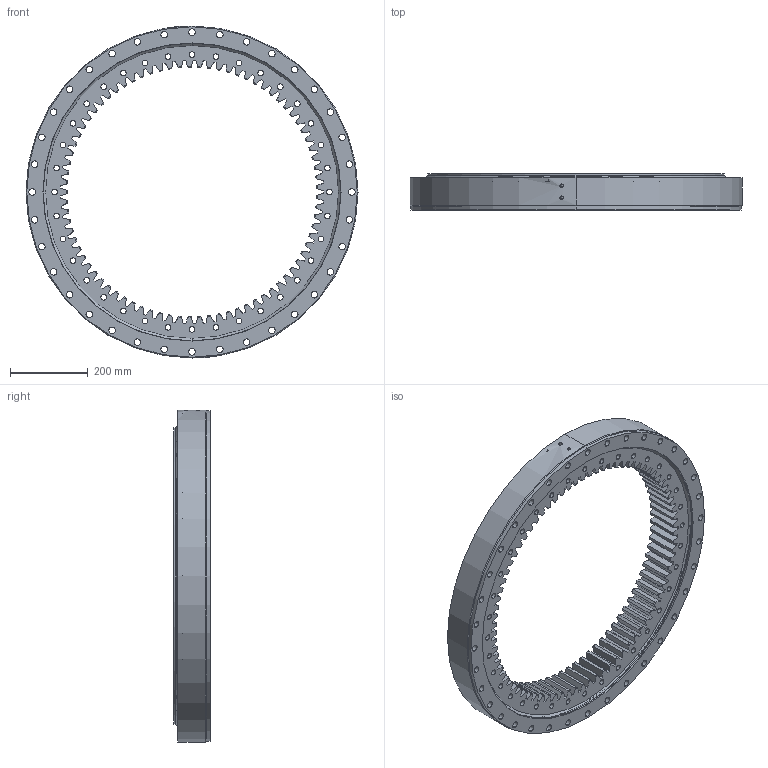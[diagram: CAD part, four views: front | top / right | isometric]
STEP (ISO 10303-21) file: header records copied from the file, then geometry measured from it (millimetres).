
FILE_DESCRIPTION (( 'STEP AP214' ), '1' );
FILE_NAME ('B2220-1-0852BA.STEP', '2022-11-24T07:02:07', ( '' ), ( '' ), 'SwSTEP 2.0', 'SolidWorks 2020', '' );
FILE_SCHEMA (( 'AUTOMOTIVE_DESIGN' ));
Length unit declared in the file: millimetre
Products named in the file (1): B2220-1-0852BA
Bounding box: 852 x 93 x 852 mm (x, y, z)
Volume: 17473030.5 mm3; surface area: 1909624.2 mm2
Topology: 4 solids, 4 shells, 800 faces, 2236 edges, 1488 vertices
Faces by surface type: cylinder 333, plane 295, cone 172
Entity records: 27153 total; most frequent: CARTESIAN_POINT 6017, ORIENTED_EDGE 4472, DIRECTION 4322, EDGE_CURVE 2236, AXIS2_PLACEMENT_3D 1625, VERTEX_POINT 1488, VECTOR 1072, LINE 1072
